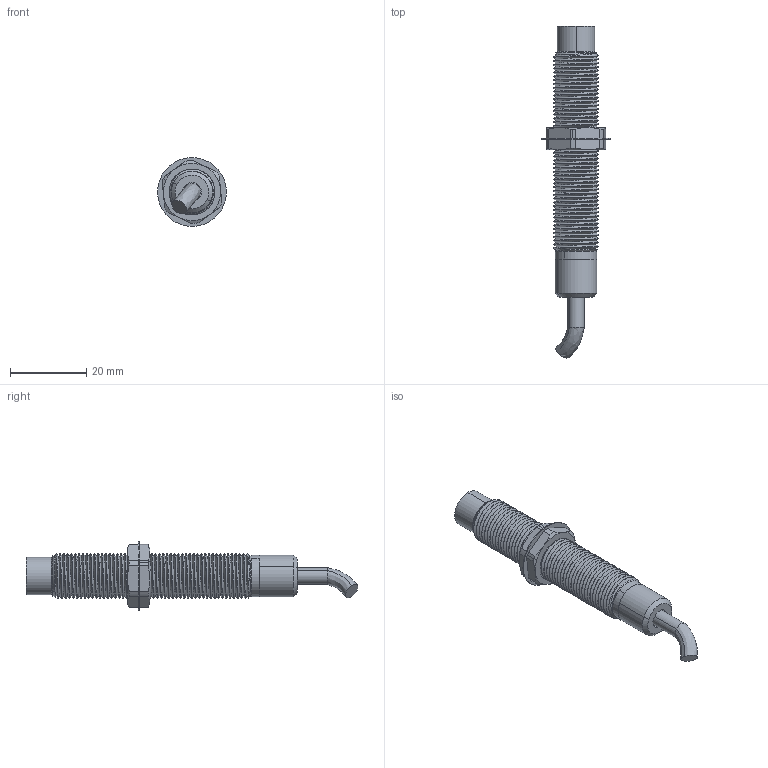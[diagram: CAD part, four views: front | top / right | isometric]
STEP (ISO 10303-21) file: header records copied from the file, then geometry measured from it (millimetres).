
FILE_DESCRIPTION (( 'STEP AP214' ), '1' );
FILE_NAME ('M12 Proximity Sensor.STEP', '2021-12-22T10:20:57', ( '' ), ( '' ), 'SwSTEP 2.0', 'SolidWorks 2014', '' );
FILE_SCHEMA (( 'AUTOMOTIVE_DESIGN' ));
Length unit declared in the file: millimetre
Products named in the file (1): M12 Proximity Sensor
Bounding box: 18 x 86.88 x 18 mm (x, y, z)
Surface area: 5368.8 mm2 (no closed solid volume)
Topology: 0 solids, 14 shells, 184 faces, 522 edges, 354 vertices
Faces by surface type: cylinder 129, plane 28, cone 23, bspline 4
Entity records: 12555 total; most frequent: CARTESIAN_POINT 6371, ORIENTED_EDGE 966, DIRECTION 745, EDGE_CURVE 522, VERTEX_POINT 354, AXIS2_PLACEMENT_3D 279, EDGE_LOOP 192, VECTOR 187
